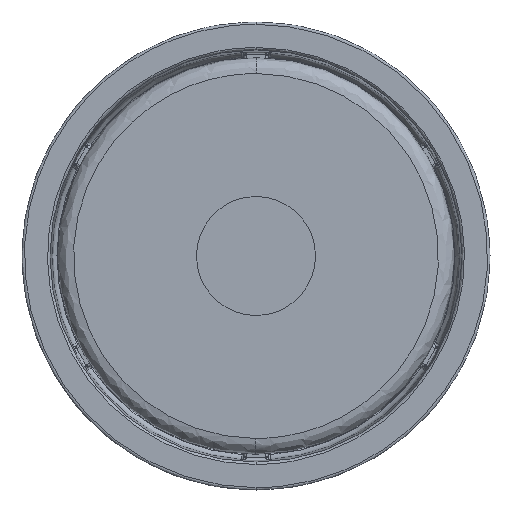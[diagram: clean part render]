
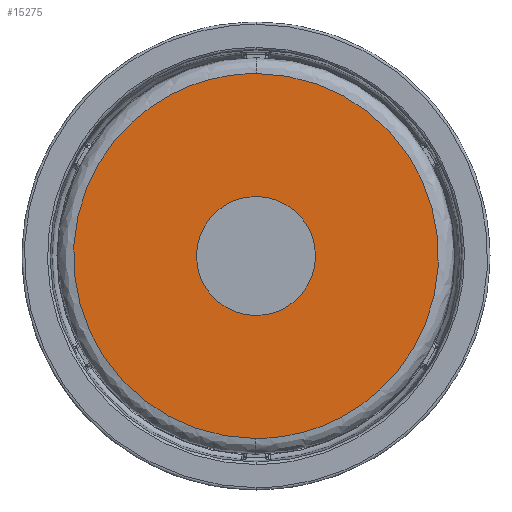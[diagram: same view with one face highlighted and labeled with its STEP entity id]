
A CAD part, front view. The second image highlights one B-rep face of the part: STEP entity #15275.
In plain terms, the highlighted planar face has unit normal (0, -1, 0).
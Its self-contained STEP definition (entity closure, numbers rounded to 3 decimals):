
#185 = CARTESIAN_POINT ( 'NONE',  ( 0., -3., 0. ) ) ;
#706 = EDGE_CURVE ( 'NONE', #5033, #9405, #7960, .T. ) ;
#970 = CARTESIAN_POINT ( 'NONE',  ( 45.926, -3., -23.148 ) ) ;
#1011 = ORIENTED_EDGE ( 'NONE', *, *, #9947, .F. ) ;
#1087 = AXIS2_PLACEMENT_3D ( 'NONE', #3613, #7525, #13062 ) ;
#1134 = EDGE_LOOP ( 'NONE', ( #16618, #3795 ) ) ;
#1367 = CARTESIAN_POINT ( 'NONE',  ( 0.074, -3., 23. ) ) ;
#1497 = DIRECTION ( 'NONE',  ( -0.003, 0., -1. ) ) ;
#2260 = CARTESIAN_POINT ( 'NONE',  ( -0.074, -3., -23. ) ) ;
#2566 = CARTESIAN_POINT ( 'NONE',  ( 0.074, -3., 23. ) ) ;
#3256 = CIRCLE ( 'NONE', #1087, 7.5 ) ;
#3613 = CARTESIAN_POINT ( 'NONE',  ( 0., -3., 0. ) ) ;
#3795 = ORIENTED_EDGE ( 'NONE', *, *, #6913, .T. ) ;
#4091 = CIRCLE ( 'NONE', #8700, 7.5 ) ;
#4134 = PLANE ( 'NONE',  #13880 ) ;
#5033 = VERTEX_POINT ( 'NONE', #13718 ) ;
#5350 = CARTESIAN_POINT ( 'NONE',  ( -0.074, -3., -23. ) ) ;
#6169 = CARTESIAN_POINT ( 'NONE',  ( -45.926, -3., 23.148 ) ) ;
#6571 = CARTESIAN_POINT ( 'NONE',  ( -0.024, -3., -7.5 ) ) ;
#6771 = EDGE_LOOP ( 'NONE', ( #1011, #10445 ) ) ;
#6913 = EDGE_CURVE ( 'NONE', #11141, #7000, #4091, .T. ) ;
#7000 = VERTEX_POINT ( 'NONE', #6571 ) ;
#7170 = CARTESIAN_POINT ( 'NONE',  ( 7.5, -3., -0.024 ) ) ;
#7525 = DIRECTION ( 'NONE',  ( 0., 1., 0. ) ) ;
#7960 =( BOUNDED_CURVE ( )  B_SPLINE_CURVE ( 3, ( #2260, #15212, #6169, #12723 ),
 .UNSPECIFIED., .F., .F. ) 
 B_SPLINE_CURVE_WITH_KNOTS ( ( 4, 4 ),
 ( 0., 1. ),
 .UNSPECIFIED. ) 
 CURVE ( )  GEOMETRIC_REPRESENTATION_ITEM ( )  RATIONAL_B_SPLINE_CURVE ( ( 1., 0.333, 0.333, 1. ) ) 
 REPRESENTATION_ITEM ( '' )  );
#8700 = AXIS2_PLACEMENT_3D ( 'NONE', #185, #13137, #14505 ) ;
#9238 = DIRECTION ( 'NONE',  ( 0., -1., 0. ) ) ;
#9405 = VERTEX_POINT ( 'NONE', #2566 ) ;
#9947 = EDGE_CURVE ( 'NONE', #9405, #5033, #14124, .T. ) ;
#10445 = ORIENTED_EDGE ( 'NONE', *, *, #706, .F. ) ;
#10626 = CARTESIAN_POINT ( 'NONE',  ( 0.024, -3., 7.5 ) ) ;
#11141 = VERTEX_POINT ( 'NONE', #10626 ) ;
#11252 = CARTESIAN_POINT ( 'NONE',  ( 46.074, -3., 22.852 ) ) ;
#12723 = CARTESIAN_POINT ( 'NONE',  ( 0.074, -3., 23. ) ) ;
#13062 = DIRECTION ( 'NONE',  ( -0.003, 0., -1. ) ) ;
#13137 = DIRECTION ( 'NONE',  ( 0., 1., 0. ) ) ;
#13245 = FACE_BOUND ( 'NONE', #1134, .T. ) ;
#13718 = CARTESIAN_POINT ( 'NONE',  ( -0.074, -3., -23. ) ) ;
#13880 = AXIS2_PLACEMENT_3D ( 'NONE', #7170, #9238, #1497 ) ;
#14124 =( BOUNDED_CURVE ( )  B_SPLINE_CURVE ( 3, ( #1367, #11252, #970, #5350 ),
 .UNSPECIFIED., .F., .F. ) 
 B_SPLINE_CURVE_WITH_KNOTS ( ( 4, 4 ),
 ( 0., 1. ),
 .UNSPECIFIED. ) 
 CURVE ( )  GEOMETRIC_REPRESENTATION_ITEM ( )  RATIONAL_B_SPLINE_CURVE ( ( 1., 0.333, 0.333, 1. ) ) 
 REPRESENTATION_ITEM ( '' )  );
#14301 = EDGE_CURVE ( 'NONE', #7000, #11141, #3256, .T. ) ;
#14505 = DIRECTION ( 'NONE',  ( -0.003, 0., -1. ) ) ;
#15212 = CARTESIAN_POINT ( 'NONE',  ( -46.074, -3., -22.852 ) ) ;
#15275 = ADVANCED_FACE ( 'NONE', ( #13245, #15723 ), #4134, .T. ) ;
#15723 = FACE_OUTER_BOUND ( 'NONE', #6771, .T. ) ;
#16618 = ORIENTED_EDGE ( 'NONE', *, *, #14301, .T. ) ;
